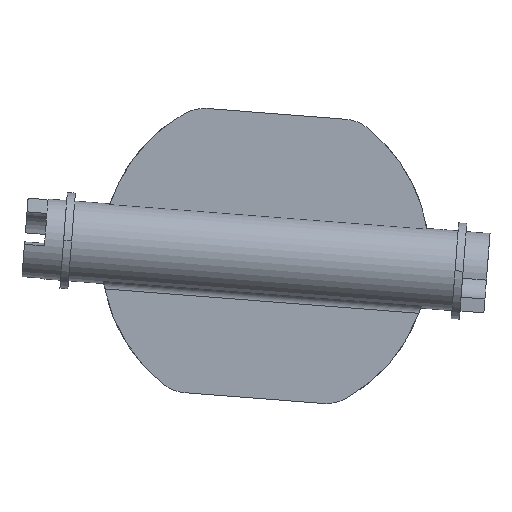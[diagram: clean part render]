
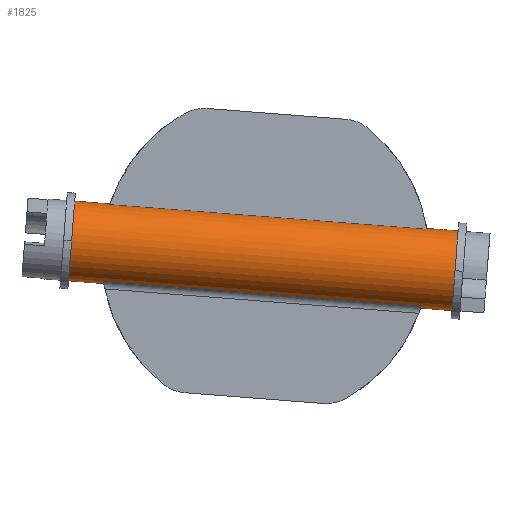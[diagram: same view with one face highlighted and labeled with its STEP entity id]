
A CAD part, front view. The second image highlights one B-rep face of the part: STEP entity #1825.
In plain terms, the highlighted cylindrical face has radius 5 mm (diameter 10 mm), a partial arc.
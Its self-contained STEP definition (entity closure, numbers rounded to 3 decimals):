
#1=DIRECTION('',(0.997,0.,-0.077));
#2=VECTOR('',#1,39.812);
#3=CARTESIAN_POINT('',(528.907,-1.,151.618));
#4=LINE('',#3,#2);
#68=DIRECTION('',(0.997,0.,-0.077));
#69=VECTOR('',#68,39.901);
#70=CARTESIAN_POINT('',(528.12,-1.667,142.037));
#71=LINE('',#70,#69);
#72=CARTESIAN_POINT('',(524.14,0.,147.074));
#73=DIRECTION('',(0.997,0.,-0.077));
#74=DIRECTION('',(0.077,0.,0.997));
#75=AXIS2_PLACEMENT_3D('',#72,#73,#74);
#77=DIRECTION('',(0.997,0.,-0.077));
#78=VECTOR('',#77,4.427);
#79=CARTESIAN_POINT('',(524.526,0.,152.059));
#80=LINE('',#79,#78);
#81=DIRECTION('',(0.997,0.,-0.077));
#82=VECTOR('',#81,3.927);
#83=CARTESIAN_POINT('',(568.583,0.,148.643));
#84=LINE('',#83,#82);
#85=CARTESIAN_POINT('',(572.112,0.,143.354));
#86=DIRECTION('',(0.997,0.,-0.077));
#87=DIRECTION('',(0.077,0.,0.997));
#88=AXIS2_PLACEMENT_3D('',#85,#86,#87);
#176=DIRECTION('',(0.997,0.,-0.077));
#177=VECTOR('',#176,4.427);
#178=CARTESIAN_POINT('',(523.753,0.,142.089));
#179=LINE('',#178,#177);
#180=DIRECTION('',(0.997,0.,-0.077));
#181=VECTOR('',#180,3.927);
#182=CARTESIAN_POINT('',(567.81,0.,
138.673));
#183=LINE('',#182,#181);
#714=CARTESIAN_POINT('',(528.907,-1.,151.618));
#715=CARTESIAN_POINT('',(528.915,-0.89,151.64));
#716=CARTESIAN_POINT('',(528.927,-0.67,151.676));
#717=CARTESIAN_POINT('',(528.938,-0.334,151.709));
#718=CARTESIAN_POINT('',(528.94,-0.111,151.717));
#719=CARTESIAN_POINT('',(528.94,0.,151.717));
#721=CARTESIAN_POINT('',(528.167,0.,141.746));
#722=CARTESIAN_POINT('',(528.167,-0.189,141.746));
#723=CARTESIAN_POINT('',(528.163,-0.564,141.768));
#724=CARTESIAN_POINT('',(528.147,-1.123,141.865));
#725=CARTESIAN_POINT('',(528.13,-1.487,141.972));
#726=CARTESIAN_POINT('',(528.12,-1.667,142.037));
#747=CARTESIAN_POINT('',(528.167,0.,141.746));
#769=CARTESIAN_POINT('',(568.583,0.,148.643));
#770=CARTESIAN_POINT('',(568.583,-0.111,148.643));
#771=CARTESIAN_POINT('',(568.584,-0.334,148.635));
#772=CARTESIAN_POINT('',(568.59,-0.67,148.601));
#773=CARTESIAN_POINT('',(568.596,-0.89,148.563));
#774=CARTESIAN_POINT('',(568.6,-1.,148.54));
#790=CARTESIAN_POINT('',(567.901,-1.667,138.952));
#791=CARTESIAN_POINT('',(567.882,-1.487,138.89));
#792=CARTESIAN_POINT('',(567.848,-1.123,138.787));
#793=CARTESIAN_POINT('',(567.817,-0.564,138.693));
#794=CARTESIAN_POINT('',(567.81,-0.189,138.673));
#795=CARTESIAN_POINT('',(567.81,0.,
138.673));
#797=CARTESIAN_POINT('',(567.81,0.,
138.673));
#1425=CARTESIAN_POINT('',(528.907,-1.,151.618));
#1426=CARTESIAN_POINT('',(568.6,-1.,148.54));
#1427=VERTEX_POINT('',#1425);
#1428=VERTEX_POINT('',#1426);
#1433=VERTEX_POINT('',#747);
#1434=VERTEX_POINT('',#719);
#1435=VERTEX_POINT('',#797);
#1436=VERTEX_POINT('',#769);
#1453=CARTESIAN_POINT('',(528.12,-1.667,142.037));
#1454=CARTESIAN_POINT('',(567.901,-1.667,138.952));
#1455=VERTEX_POINT('',#1453);
#1456=VERTEX_POINT('',#1454);
#1469=CARTESIAN_POINT('',(571.725,0.,138.369));
#1470=CARTESIAN_POINT('',(572.499,0.,148.339));
#1471=VERTEX_POINT('',#1469);
#1472=VERTEX_POINT('',#1470);
#1489=CARTESIAN_POINT('',(523.753,0.,142.089));
#1490=CARTESIAN_POINT('',(524.526,0.,152.059));
#1491=VERTEX_POINT('',#1489);
#1492=VERTEX_POINT('',#1490);
#1795=CARTESIAN_POINT('',(520.807,0.,147.332));
#1796=DIRECTION('',(0.997,0.,-0.077));
#1797=DIRECTION('',(-0.077,0.,-0.997));
#1798=AXIS2_PLACEMENT_3D('',#1795,#1796,#1797);
#1799=CYLINDRICAL_SURFACE('',#1798,5.);
#1801=ORIENTED_EDGE('',*,*,#1800,.F.);
#1803=ORIENTED_EDGE('',*,*,#1802,.F.);
#1805=ORIENTED_EDGE('',*,*,#1804,.F.);
#1807=ORIENTED_EDGE('',*,*,#1806,.F.);
#1809=ORIENTED_EDGE('',*,*,#1808,.T.);
#1811=ORIENTED_EDGE('',*,*,#1810,.F.);
#1812=ORIENTED_EDGE('',*,*,#1704,.T.);
#1814=ORIENTED_EDGE('',*,*,#1813,.F.);
#1816=ORIENTED_EDGE('',*,*,#1815,.T.);
#1818=ORIENTED_EDGE('',*,*,#1817,.T.);
#1820=ORIENTED_EDGE('',*,*,#1819,.F.);
#1822=ORIENTED_EDGE('',*,*,#1821,.F.);
#1823=EDGE_LOOP('',(#1801,#1803,#1805,#1807,#1809,#1811,#1812,#1814,#1816,#1818,
#1820,#1822));
#1824=FACE_OUTER_BOUND('',#1823,.F.);
#1825=ADVANCED_FACE('',(#1824),#1799,.T.);
#76=CIRCLE('',#75,5.);
#89=CIRCLE('',#88,5.);
#720=B_SPLINE_CURVE_WITH_KNOTS('',3,(#714,#715,#716,#717,#718,#719),
.UNSPECIFIED.,.F.,.F.,(4,1,1,4),(0.,0.333,0.667,1.),
.UNSPECIFIED.);
#727=B_SPLINE_CURVE_WITH_KNOTS('',3,(#721,#722,#723,#724,#725,#726),
.UNSPECIFIED.,.F.,.F.,(4,1,1,4),(0.,0.333,0.667,1.),
.UNSPECIFIED.);
#775=B_SPLINE_CURVE_WITH_KNOTS('',3,(#769,#770,#771,#772,#773,#774),
.UNSPECIFIED.,.F.,.F.,(4,1,1,4),(0.,0.333,0.667,1.),
.UNSPECIFIED.);
#796=B_SPLINE_CURVE_WITH_KNOTS('',3,(#790,#791,#792,#793,#794,#795),
.UNSPECIFIED.,.F.,.F.,(4,1,1,4),(0.,0.333,0.667,1.),
.UNSPECIFIED.);
#1704=EDGE_CURVE('',#1427,#1428,#4,.T.);
#1800=EDGE_CURVE('',#1455,#1456,#71,.T.);
#1802=EDGE_CURVE('',#1433,#1455,#727,.T.);
#1804=EDGE_CURVE('',#1491,#1433,#179,.T.);
#1806=EDGE_CURVE('',#1492,#1491,#76,.T.);
#1808=EDGE_CURVE('',#1492,#1434,#80,.T.);
#1810=EDGE_CURVE('',#1427,#1434,#720,.T.);
#1813=EDGE_CURVE('',#1436,#1428,#775,.T.);
#1815=EDGE_CURVE('',#1436,#1472,#84,.T.);
#1817=EDGE_CURVE('',#1472,#1471,#89,.T.);
#1819=EDGE_CURVE('',#1435,#1471,#183,.T.);
#1821=EDGE_CURVE('',#1456,#1435,#796,.T.);
